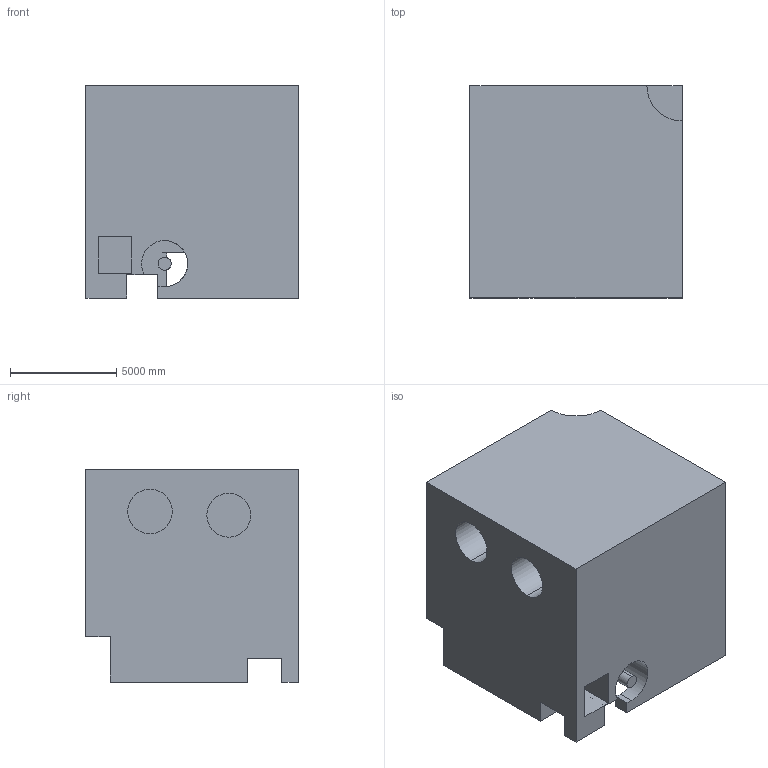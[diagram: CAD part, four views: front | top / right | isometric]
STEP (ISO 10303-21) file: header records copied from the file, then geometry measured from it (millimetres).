
FILE_DESCRIPTION (( 'STEP AP203' ), '1' );
FILE_NAME ('163.STEP', '2022-08-31T12:03:49', ( 'user' ), ( '' ), 'SwSTEP 2.0', 'SolidWorks 2021', '' );
FILE_SCHEMA (( 'CONFIG_CONTROL_DESIGN' ));
Length unit declared in the file: centimetre
Products named in the file (1): 163
Bounding box: 10000 x 10000 x 10000 mm (x, y, z)
Volume: 861096568432.4 mm3; surface area: 754451774.4 mm2
Topology: 1 solids, 1 shells, 50 faces, 138 edges, 92 vertices
Faces by surface type: plane 39, cylinder 11
Entity records: 1669 total; most frequent: CARTESIAN_POINT 287, ORIENTED_EDGE 276, DIRECTION 264, EDGE_CURVE 138, VECTOR 110, LINE 110, VERTEX_POINT 92, AXIS2_PLACEMENT_3D 77
